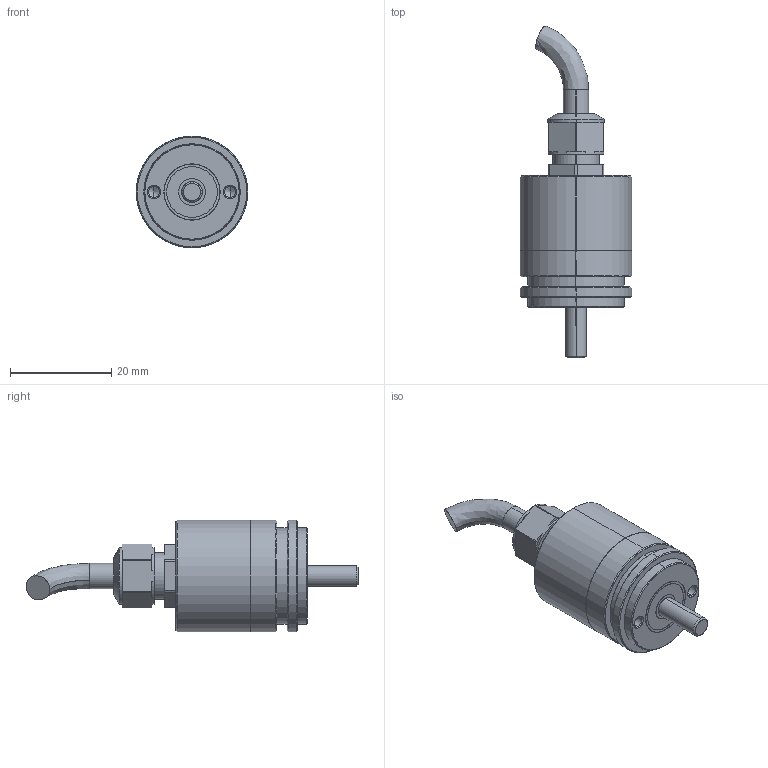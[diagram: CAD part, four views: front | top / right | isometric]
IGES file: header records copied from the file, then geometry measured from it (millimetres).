
Start section: SolidWorks IGES FILE using analytic representation for surfaces
Global section: file name: E:\MOJIDOK2006\projekti2006\3D-RE-RM-izdelki\RE22IP53axial-3D.IGS; native system: SolidWorks 99 by SolidWorks Corporation; preprocessor: Version 3.0; author: cerar; date: 1060905.145826; units: millimetre
Bounding box: 22 x 65.5 x 22 mm (x, y, z)
Surface area: 3648.2 mm2 (no closed solid volume)
Topology: 0 solids, 0 shells, 131 faces, 1599 edges, 1595 vertices
Faces by surface type: revolution 77, bspline 54
